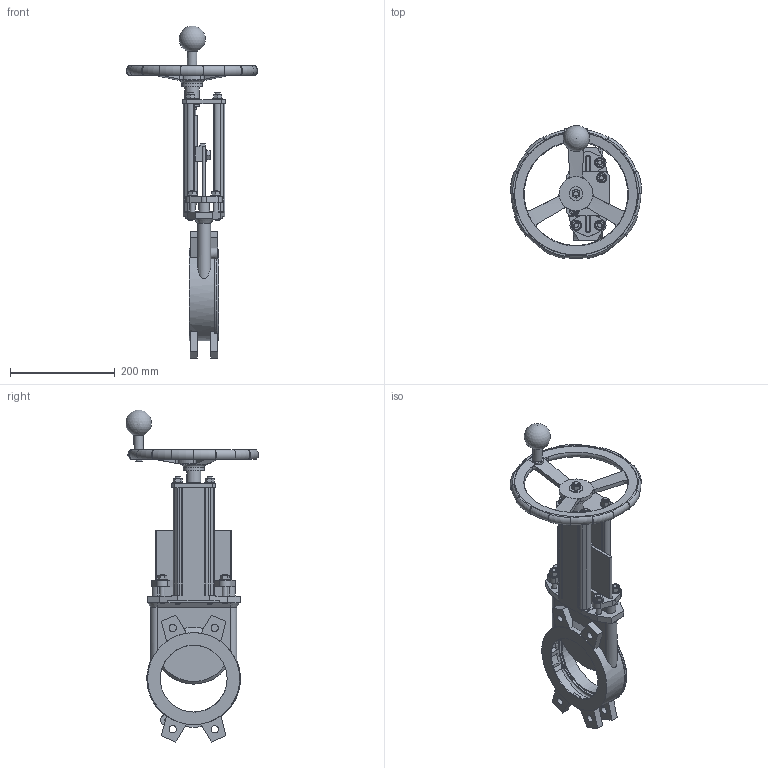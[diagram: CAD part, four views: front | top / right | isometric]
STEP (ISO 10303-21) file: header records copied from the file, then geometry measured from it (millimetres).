
FILE_DESCRIPTION(('STEP AP203'),'1');
FILE_NAME('G:/KONSTRUK/3-d block för CD/MV VALVE/HAND WHEEL/MV125-PN10-HW.stp','2012-02-16T10:10:39',(' '),(' '),'Spatial InterOp 3D',' ',' ');
FILE_SCHEMA(('CONFIG_CONTROL_DESIGN'));
Length unit declared in the file: metre
Products named in the file (1): 1
Bounding box: 251.92 x 254.51 x 635.21 mm (x, y, z)
Volume: 1943755.5 mm3; surface area: 603869.6 mm2
Topology: 1 solids, 4 shells, 752 faces, 1859 edges, 1190 vertices
Faces by surface type: plane 384, cone 174, cylinder 165, torus 22, bspline 6, sphere 1
Full cylindrical faces by diameter (mm): 6.75 x2, 10 x19, 10.25 x1, 10.791 x9, 11 x4, 12 x6, 12.793 x1, 14 x8, 15 x3, 17 x1, 18 x1, 19.4 x1, 19.5 x1, 19.715 x8, 20 x2, 24 x1, 26.35 x1, 27 x2, 27.5 x2, 40 x1, 128 x2, 134 x1, 140 x1, 144 x1, 150 x1, 166 x1, 176 x1, 179 x1, 235 x1, 237 x1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
Entity records: 24837 total; most frequent: CARTESIAN_POINT 7984, DIRECTION 3428, ORIENTED_EDGE 3346, EDGE_CURVE 1673, AXIS2_PLACEMENT_3D 1369, VERTEX_POINT 1132, EDGE_LOOP 996, FACE_OUTER_BOUND 837
